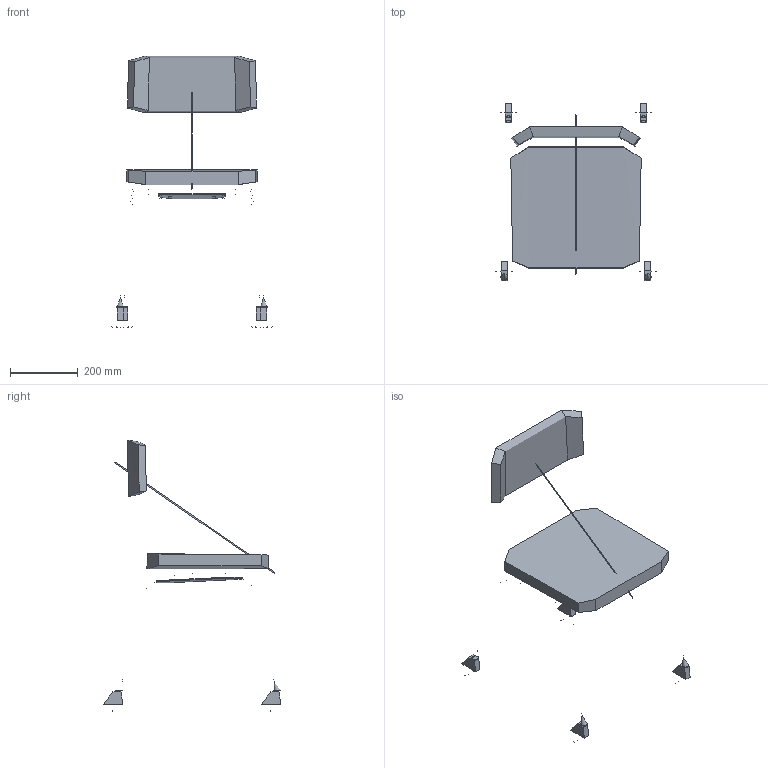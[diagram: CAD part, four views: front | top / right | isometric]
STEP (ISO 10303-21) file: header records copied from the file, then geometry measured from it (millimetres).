
FILE_DESCRIPTION(/* description */ (''),/* implementation_level */ '2;1');
FILE_NAME(/* name */ 'ZOE 222-BL',/* time_stamp */ '2023-05-17T08:33:07+02:00',/* author */ (''),/* organization */ (''),/* preprocessor_version */ 'ST-DEVELOPER v16.5',/* originating_system */ 'Rhino 7.29',/* authorisation */ '');
FILE_SCHEMA (('CONFIG_CONTROL_DESIGN'));
Length unit declared in the file: millimetre
Products named in the file (1): Document
Bounding box: 475 x 525.92 x 805.24 mm (x, y, z)
Volume: 14440647.9 mm3; surface area: 1410834.8 mm2
Topology: 8 solids, 32 shells, 173 faces, 384 edges, 246 vertices
Faces by surface type: bspline 71, plane 64, cylinder 38
Full cylindrical faces by diameter (mm): 11 x4, 18 x16, 22 x2, 60 x8
Entity records: 16376 total; most frequent: CARTESIAN_POINT 13810, ORIENTED_EDGE 704, EDGE_CURVE 381, VERTEX_POINT 244, B_SPLINE_CURVE_WITH_KNOTS 184, EDGE_LOOP 177, ADVANCED_FACE 173, FACE_OUTER_BOUND 173
